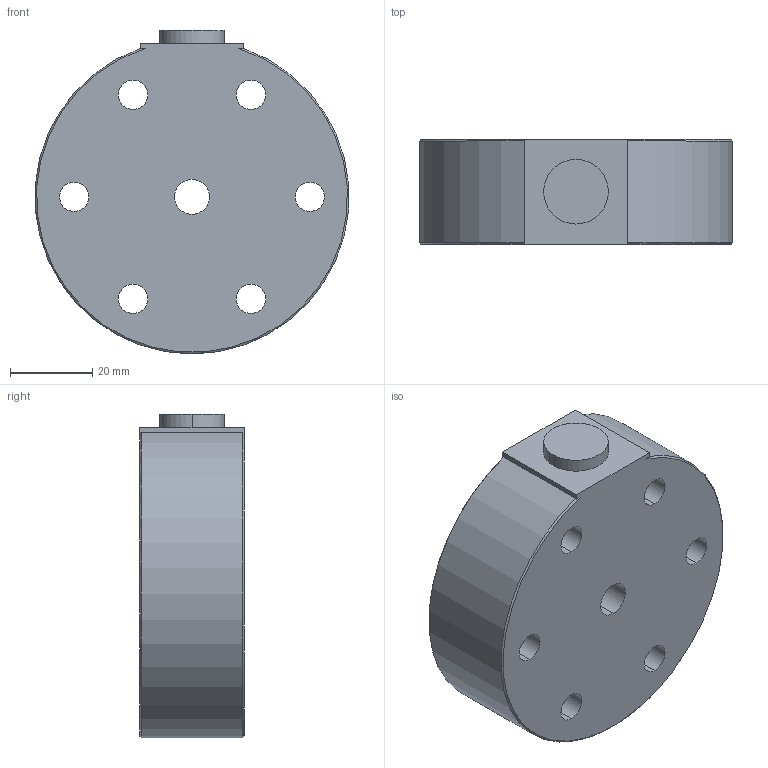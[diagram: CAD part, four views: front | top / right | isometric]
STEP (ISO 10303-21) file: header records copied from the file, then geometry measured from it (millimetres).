
FILE_DESCRIPTION (( 'STEP AP214' ), '1' );
FILE_NAME ('SS1175-1KLB.STEP', '2024-09-27T13:15:49', ( '' ), ( '' ), 'SwSTEP 2.0', 'SolidWorks 2008', '' );
FILE_SCHEMA (( 'AUTOMOTIVE_DESIGN' ));
Length unit declared in the file: inch
Products named in the file (1): SS1175-1KLB
Bounding box: 75.95 x 25.4 x 78.54 mm (x, y, z)
Volume: 108853.4 mm3; surface area: 18798.2 mm2
Topology: 1 solids, 1 shells, 31 faces, 79 edges, 51 vertices
Faces by surface type: cylinder 18, plane 10, cone 3
Entity records: 1037 total; most frequent: DIRECTION 178, CARTESIAN_POINT 174, ORIENTED_EDGE 158, EDGE_CURVE 79, AXIS2_PLACEMENT_3D 71, VERTEX_POINT 51, EDGE_LOOP 46, CIRCLE 39
